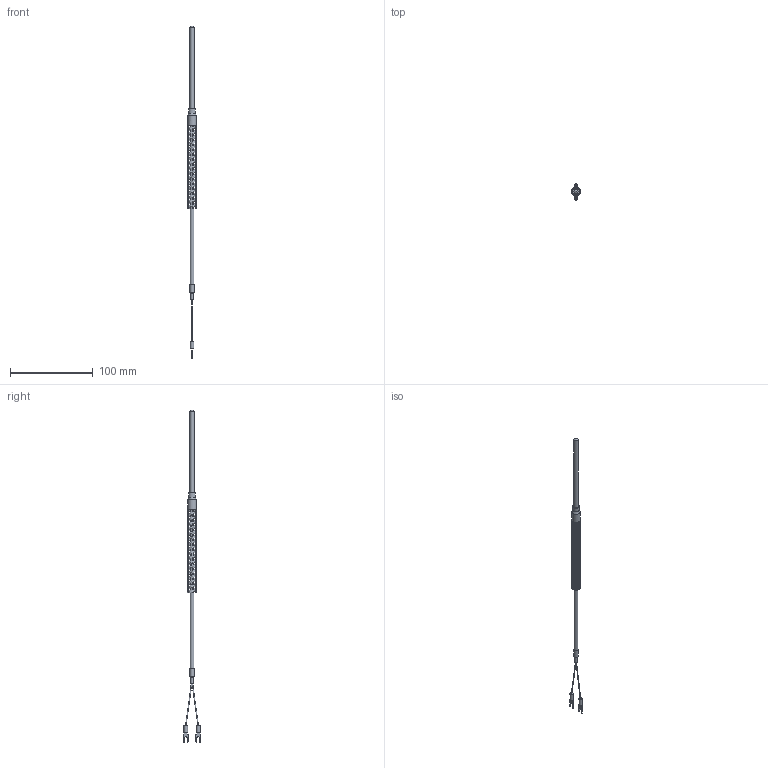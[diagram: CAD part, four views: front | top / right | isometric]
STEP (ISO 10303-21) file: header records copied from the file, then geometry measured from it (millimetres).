
FILE_DESCRIPTION (( 'STEP AP203' ), '1' );
FILE_NAME ('YIT100-1(0).STEP', '2025-02-25T00:56:19', ( '' ), ( '' ), 'SwSTEP 2.0', 'SolidWorks 2021', '' );
FILE_SCHEMA (( 'CONFIG_CONTROL_DESIGN' ));
Length unit declared in the file: millimetre
Products named in the file (1): YIT100-1(0)
Bounding box: 10.9 x 20.85 x 400.25 mm (x, y, z)
Volume: 8115 mm3; surface area: 11304.6 mm2
Topology: 1 solids, 1 shells, 58 faces, 140 edges, 92 vertices
Faces by surface type: plane 30, cylinder 22, cone 3, bspline 3
Full cylindrical faces by diameter (mm): 3.16 x1, 4.5 x2, 4.8 x1, 5 x2, 8 x1, 10 x1
Entity records: 10200 total; most frequent: CARTESIAN_POINT 8816, DIRECTION 281, ORIENTED_EDGE 244, EDGE_CURVE 122, AXIS2_PLACEMENT_3D 106, VERTEX_POINT 88, EDGE_LOOP 80, VECTOR 69
